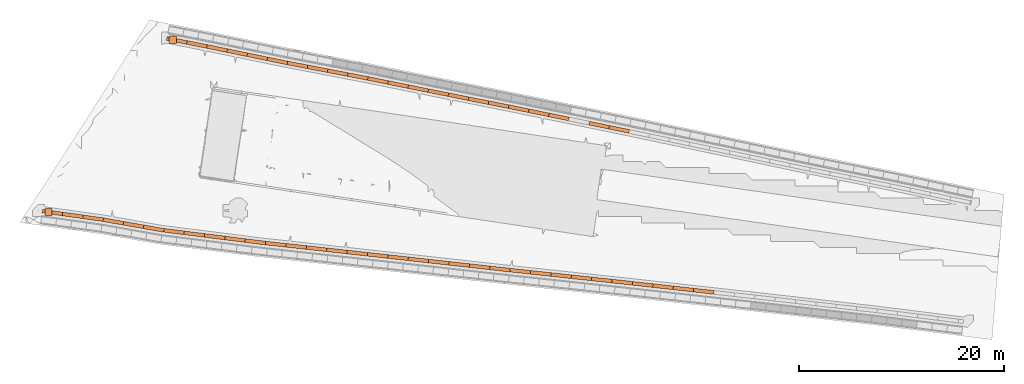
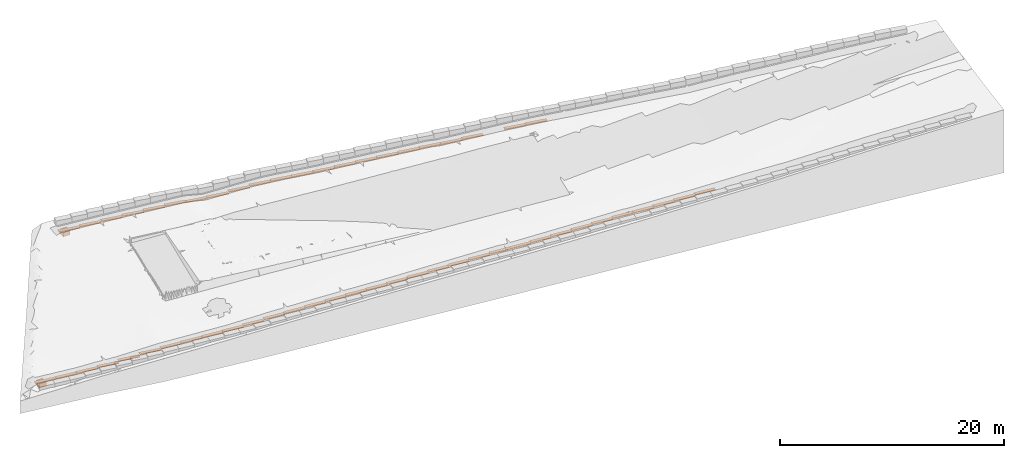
# Not in any storey, part 5 of 7: 57 proxies.
"""IFC4 model written with IfcOpenShell, lengths in metres."""

import ifcopenshell
import ifcopenshell.guid

model = None  # the IFC model being written
_history = None  # IfcOwnerHistory: only IFC2X3 demands one
_inside = {}  # id of a spatial element -> (the spatial element, [elements in it])
_under = {}  # id of a project, library or spatial element -> (it, [spatial elements below it])
_declared = {}  # id of a project -> (the project, [libraries it declares])
_typed = {}  # id of a type object -> (the type object, [elements of that type])
_made_of = {}  # id of a material, layer set ... -> (it, [elements and type objects made of it])


def new_model(schema):
    """Start an empty IFC model of exactly this schema.

    Asked for "IFC4X3", IfcOpenShell would pick the latest addendum, in which some entities
    have other attributes; the version numbers below select the first issue.
    IFC2X3 requires an IfcOwnerHistory on every rooted entity: one is made here for all.
    """
    global model, _history
    if schema == "IFC4X3":
        model = ifcopenshell.file(schema_version=(4, 3, 0, 0))
    else:
        model = ifcopenshell.file(schema=schema)
    _inside.clear()
    _under.clear()
    _declared.clear()
    _typed.clear()
    _made_of.clear()
    _history = None
    if model.schema == "IFC2X3":
        org = make("IfcOrganization", Name="unknown")
        user = make(
            "IfcPersonAndOrganization",
            ThePerson=make("IfcPerson", FamilyName="unknown"),
            TheOrganization=org,
        )
        app = make(
            "IfcApplication",
            ApplicationDeveloper=org,
            Version="unknown",
            ApplicationFullName="unknown",
            ApplicationIdentifier="unknown",
        )
        _history = make(
            "IfcOwnerHistory",
            OwningUser=user,
            OwningApplication=app,
            ChangeAction="ADDED",
            CreationDate=0,
        )
    return model


def make(cls, **values):
    """One entity of the class cls with the attributes given. An attribute that is None is left unset."""
    return model.create_entity(
        cls, **{name: value for name, value in values.items() if value is not None}
    )


def rooted(cls, **values):
    """An entity with a GlobalId (a new one), such as an element, a storey or a relation."""
    return make(cls, GlobalId=ifcopenshell.guid.new(), OwnerHistory=_history, **values)


def si_unit(unit_type, name, prefix=None):
    """IfcSIUnit, for example si_unit("LENGTHUNIT", "METRE", prefix="MILLI")."""
    return make("IfcSIUnit", UnitType=unit_type, Prefix=prefix, Name=name)


def assignment(units):
    """IfcUnitAssignment: the units of a project."""
    return None if units is None else make("IfcUnitAssignment", Units=units)


def point(xyz):
    """IfcCartesianPoint."""
    return None if xyz is None else make("IfcCartesianPoint", Coordinates=xyz)


def direction(xyz):
    """IfcDirection."""
    return None if xyz is None else make("IfcDirection", DirectionRatios=xyz)


def frame(location, z_axis=None, x_axis=None):
    """IfcAxis2Placement3D, a coordinate frame: its origin and axes. An axis left out is left unset."""
    return make(
        "IfcAxis2Placement3D",
        Location=point(location),
        Axis=direction(z_axis),
        RefDirection=direction(x_axis),
    )


def origin_with_axes():
    """The frame at (0, 0, 0) with the z axis (0, 0, 1) and the x axis (1, 0, 0) written out."""
    return frame((0.0, 0.0, 0.0), z_axis=(0.0, 0.0, 1.0), x_axis=(1.0, 0.0, 0.0))


def place(relative_to, where):
    """IfcLocalPlacement: puts the frame where relative to a parent placement (None: the world)."""
    return make(
        "IfcLocalPlacement", PlacementRelTo=relative_to, RelativePlacement=where
    )


def context(
    kind, dimensions, precision=None, world=None, true_north=None, identifier=None
):
    """IfcGeometricRepresentationContext, for example the 3D "Model" context."""
    return make(
        "IfcGeometricRepresentationContext",
        ContextIdentifier=identifier,
        ContextType=kind,
        CoordinateSpaceDimension=dimensions,
        Precision=precision,
        WorldCoordinateSystem=world,
        TrueNorth=true_north,
    )


def subcontext(parent, identifier, kind, view, scale=None):
    """IfcGeometricRepresentationSubContext, for example "Body" below "Model"."""
    return make(
        "IfcGeometricRepresentationSubContext",
        ContextIdentifier=identifier,
        ContextType=kind,
        ParentContext=parent,
        TargetScale=scale,
        TargetView=view,
    )


def project(units=None, contexts=None):
    """IfcProject with its units and contexts."""
    return rooted(
        "IfcProject",
        Name="project",
        RepresentationContexts=contexts,
        UnitsInContext=assignment(units),
    )


def spatial(cls, under=None, at=None, **own):
    """A site, building, storey or space (cls), placed at a placement, below another one or the project."""
    s = rooted(cls, ObjectPlacement=at, **own)
    if under is not None:
        _under.setdefault(under.id(), (under, []))[1].append(s)
    return s


def polyline(points):
    """IfcPolyline through the points."""
    return make("IfcPolyline", Points=[point(p) for p in points])


def outline(outer, holes=None, kind="AREA"):
    """IfcArbitraryClosedProfileDef: a profile drawn as a closed curve; with holes, ...WithVoids."""
    if holes is None:
        return make("IfcArbitraryClosedProfileDef", ProfileType=kind, OuterCurve=outer)
    return make(
        "IfcArbitraryProfileDefWithVoids",
        ProfileType=kind,
        OuterCurve=outer,
        InnerCurves=holes,
    )


def extrude(swept, where, along, depth):
    """IfcExtrudedAreaSolid: the profile swept, set in the frame where, extruded along a direction by depth."""
    return make(
        "IfcExtrudedAreaSolid",
        SweptArea=swept,
        Position=where,
        ExtrudedDirection=direction(along),
        Depth=depth,
    )


def shape(context_of_items, identifier, shape_type, items):
    """IfcShapeRepresentation: the items that make up one representation, for example the "Body"."""
    return make(
        "IfcShapeRepresentation",
        ContextOfItems=context_of_items,
        RepresentationIdentifier=identifier,
        RepresentationType=shape_type,
        Items=items,
    )


def material(Name=None, Category=None):
    """IfcMaterial."""
    return make("IfcMaterial", Name=Name, Category=Category)


def made_of(thing, what):
    """Note that an element or type object is made of a material, layer set ...; save() writes the relation."""
    if what is not None:
        _made_of.setdefault(what.id(), (what, []))[1].append(thing)
    return thing


def element(
    cls,
    number,
    at=None,
    inside=None,
    cuts=None,
    type_object=None,
    material=None,
    context=None,
    identifier="Body",
    shape_type=None,
    held_by="IfcProductDefinitionShape",
    body=None,
    shapes=None,
    **own,
):
    """One element of the class cls, such as IfcWall. Its Tag is "e" and its number.

    at: its placement. inside: the storey or other place that contains it. cuts: it is an
    opening in that element (IfcRelVoidsElement). A single representation is given by context,
    identifier, shape_type and body (its items); several are given by shapes. held_by: the class
    of the entity that holds the representations. save() writes the other relations.
    """
    e = rooted(cls, Tag="e%d" % number, ObjectPlacement=at, **own)
    if body is not None:
        shapes = [shape(context, identifier, shape_type, body)]
    if shapes is not None:
        e.Representation = make(held_by, Representations=shapes)
    if inside is not None:
        _inside.setdefault(inside.id(), (inside, []))[1].append(e)
    if cuts is not None:
        rooted(
            "IfcRelVoidsElement", RelatingBuildingElement=cuts, RelatedOpeningElement=e
        )
    if type_object is not None:
        _typed.setdefault(type_object.id(), (type_object, []))[1].append(e)
    return made_of(e, material)


def aggregate(whole, parts):
    """IfcRelAggregates: a whole, such as a stair, and the parts it consists of."""
    return rooted("IfcRelAggregates", RelatingObject=whole, RelatedObjects=parts)


def save(model, path):
    """Write the relations noted so far, then the file.

    IfcRelAggregates (storeys below a building ...), IfcRelContainedInSpatialStructure (elements
    in a storey), IfcRelDefinesByType, IfcRelAssociatesMaterial and IfcRelDeclares: one each for
    every whole, place, type object, material and project.
    """
    for whole, parts in _under.values():
        aggregate(whole, parts)
    for where, things in _inside.values():
        rooted(
            "IfcRelContainedInSpatialStructure",
            RelatedElements=things,
            RelatingStructure=where,
        )
    for kind, things in _typed.values():
        rooted("IfcRelDefinesByType", RelatedObjects=things, RelatingType=kind)
    for what, things in _made_of.values():
        rooted("IfcRelAssociatesMaterial", RelatedObjects=things, RelatingMaterial=what)
    for by, libraries in _declared.values():
        rooted("IfcRelDeclares", RelatingContext=by, RelatedDefinitions=libraries)
    model.write(path)


model = new_model("IFC4")

# Units and contexts
model_context = context("Model", 3, precision=1e-05, world=origin_with_axes(), true_north=direction((0.0, 1.0)))
body_context = subcontext(model_context, "Body", "Model", "MODEL_VIEW")
ifc_project = project(units=[si_unit("VOLUMEUNIT", "CUBIC_METRE"), si_unit("LENGTHUNIT", "METRE"), si_unit("AREAUNIT", "SQUARE_METRE")], contexts=[model_context])

# Site
site_placement = place(None, origin_with_axes())
site = spatial("IfcSite", under=ifc_project, at=site_placement, Name="Lares · Rua das Mercês · artigo 4771")

# Proxies
ifc_material_1 = material(Name="Brita drenante", Category="stone")
proxy_1_placement = place(site_placement, frame((0.0, 0.0, 12.9696659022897), z_axis=(0.0, 0.0, 1.0), x_axis=(1.0, -1.03767253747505e-17, 0.0)))
element("IfcBuildingElementProxy", 1, at=proxy_1_placement, inside=site, material=ifc_material_1, Name="Limite north · vala drenante 01", ObjectType="INTERCEPTOR_SWALE", PredefinedType="USERDEFINED", context=body_context, shape_type="SweptSolid", body=[
    extrude(outline(polyline([(4.20540687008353, 22.6116340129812), (4.13631619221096, 22.2583261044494), (2.17349447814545, 22.6421632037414), (2.24258515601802, 22.9954711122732), (4.20540687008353, 22.6116340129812)])), origin_with_axes(), (0.0, 0.0, 1.0), 0.07),
])
proxy_2_placement = place(site_placement, frame((0.0, 0.0, 13.09375059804), z_axis=(0.0, 0.0, 1.0), x_axis=(1.0, -1.03767253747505e-17, 0.0)))
element("IfcBuildingElementProxy", 2, at=proxy_2_placement, inside=site, material=ifc_material_1, Name="Limite north · vala drenante 02", ObjectType="INTERCEPTOR_SWALE", PredefinedType="USERDEFINED", context=body_context, shape_type="SweptSolid", body=[
    extrude(outline(polyline([(5.6166591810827, 22.3356583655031), (5.61837167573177, 22.3353148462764), (6.16886850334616, 22.2221064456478), (6.09635283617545, 21.8694855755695), (5.54671142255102, 21.9825180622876), (4.13631619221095, 22.2583261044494), (4.20540687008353, 22.6116340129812), (5.6166591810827, 22.3356583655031)])), origin_with_axes(), (0.0, 0.0, 1.0), 0.07),
])
proxy_3_placement = place(site_placement, frame((0.0, 0.0, 13.2143798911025), z_axis=(0.0, 0.0, 1.0), x_axis=(1.0, -1.03767253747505e-17, 0.0)))
element("IfcBuildingElementProxy", 3, at=proxy_3_placement, inside=site, material=ifc_material_1, Name="Limite north · vala drenante 03", ObjectType="INTERCEPTOR_SWALE", PredefinedType="USERDEFINED", context=body_context, shape_type="SweptSolid", body=[
    extrude(outline(polyline([(8.12787333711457, 21.8192416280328), (8.05535766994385, 21.4666207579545), (6.09635283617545, 21.8694855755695), (6.16886850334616, 22.2221064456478), (8.12787333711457, 21.8192416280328)])), origin_with_axes(), (0.0, 0.0, 1.0), 0.07),
])
proxy_4_placement = place(site_placement, frame((0.0, 0.0, 13.3340977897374), z_axis=(0.0, 0.0, 1.0), x_axis=(1.0, -1.03767253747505e-17, 0.0)))
element("IfcBuildingElementProxy", 4, at=proxy_4_placement, inside=site, material=ifc_material_1, Name="Limite north · vala drenante 04", ObjectType="INTERCEPTOR_SWALE", PredefinedType="USERDEFINED", context=body_context, shape_type="SweptSolid", body=[
    extrude(outline(polyline([(10.086878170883, 21.4163768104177), (10.0143625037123, 21.0637559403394), (8.05535766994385, 21.4666207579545), (8.12787333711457, 21.8192416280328), (10.086878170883, 21.4163768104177)])), origin_with_axes(), (0.0, 0.0, 1.0), 0.07),
])
proxy_5_placement = place(site_placement, frame((0.0, 0.0, 13.4538156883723), z_axis=(0.0, 0.0, 1.0), x_axis=(1.0, -1.03767253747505e-17, 0.0)))
element("IfcBuildingElementProxy", 5, at=proxy_5_placement, inside=site, material=ifc_material_1, Name="Limite north · vala drenante 05", ObjectType="INTERCEPTOR_SWALE", PredefinedType="USERDEFINED", context=body_context, shape_type="SweptSolid", body=[
    extrude(outline(polyline([(12.0458830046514, 21.0135119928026), (11.9733673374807, 20.6608911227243), (10.0143625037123, 21.0637559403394), (10.086878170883, 21.4163768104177), (12.0458830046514, 21.0135119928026)])), origin_with_axes(), (0.0, 0.0, 1.0), 0.07),
])
proxy_6_placement = place(site_placement, frame((0.0, 0.0, 13.5628101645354), z_axis=(0.0, 0.0, 1.0), x_axis=(1.0, -1.03767253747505e-17, 0.0)))
element("IfcBuildingElementProxy", 6, at=proxy_6_placement, inside=site, material=ifc_material_1, Name="Limite north · vala drenante 06", ObjectType="INTERCEPTOR_SWALE", PredefinedType="USERDEFINED", context=body_context, shape_type="SweptSolid", body=[
    extrude(outline(polyline([(13.7537541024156, 20.6622922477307), (14.0032633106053, 20.6143063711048), (13.935273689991, 20.2607849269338), (13.684631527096, 20.3089886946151), (13.6823685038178, 20.3094389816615), (11.9733673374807, 20.6608911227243), (12.0458830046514, 21.0135119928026), (13.7537541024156, 20.6622922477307)])), origin_with_axes(), (0.0, 0.0, 1.0), 0.07),
])
proxy_7_placement = place(site_placement, frame((0.0, 0.0, 13.4964708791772), z_axis=(0.0, 0.0, 1.0), x_axis=(1.0, -1.03767253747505e-17, 0.0)))
element("IfcBuildingElementProxy", 7, at=proxy_7_placement, inside=site, material=ifc_material_1, Name="Limite north · vala drenante 07", ObjectType="INTERCEPTOR_SWALE", PredefinedType="USERDEFINED", context=body_context, shape_type="SweptSolid", body=[
    extrude(outline(polyline([(15.9672713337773, 20.2365862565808), (15.899281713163, 19.8830648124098), (13.935273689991, 20.2607849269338), (14.0032633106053, 20.6143063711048), (15.9672713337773, 20.2365862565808)])), origin_with_axes(), (0.0, 0.0, 1.0), 0.07),
])
proxy_8_placement = place(site_placement, frame((0.0, 0.0, 13.538468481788), z_axis=(0.0, 0.0, 1.0), x_axis=(1.0, -1.03767253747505e-17, 0.0)))
element("IfcBuildingElementProxy", 8, at=proxy_8_placement, inside=site, material=ifc_material_1, Name="Limite north · vala drenante 08", ObjectType="INTERCEPTOR_SWALE", PredefinedType="USERDEFINED", context=body_context, shape_type="SweptSolid", body=[
    extrude(outline(polyline([(17.9312793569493, 19.8588661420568), (17.863289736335, 19.5053446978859), (15.899281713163, 19.8830648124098), (15.9672713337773, 20.2365862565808), (17.9312793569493, 19.8588661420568)])), origin_with_axes(), (0.0, 0.0, 1.0), 0.07),
])
proxy_9_placement = place(site_placement, frame((0.0, 0.0, 13.7432660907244), z_axis=(0.0, 0.0, 1.0), x_axis=(1.0, -1.03767253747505e-17, 0.0)))
element("IfcBuildingElementProxy", 9, at=proxy_9_placement, inside=site, material=ifc_material_1, Name="Limite north · vala drenante 09", ObjectType="INTERCEPTOR_SWALE", PredefinedType="USERDEFINED", context=body_context, shape_type="SweptSolid", body=[
    extrude(outline(polyline([(19.8952873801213, 19.4811460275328), (19.827297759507, 19.1276245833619), (17.863289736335, 19.5053446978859), (17.9312793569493, 19.8588661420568), (19.8952873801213, 19.4811460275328)])), origin_with_axes(), (0.0, 0.0, 1.0), 0.07),
])
proxy_10_placement = place(site_placement, frame((0.0, 0.0, 13.9169848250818), z_axis=(0.0, 0.0, 1.0), x_axis=(1.0, -1.03767253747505e-17, 0.0)))
element("IfcBuildingElementProxy", 10, at=proxy_10_placement, inside=site, material=ifc_material_1, Name="Limite north · vala drenante 10", ObjectType="INTERCEPTOR_SWALE", PredefinedType="USERDEFINED", context=body_context, shape_type="SweptSolid", body=[
    extrude(outline(polyline([(21.807899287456, 19.1133104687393), (21.8096475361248, 19.1129652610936), (21.8609432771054, 19.1025723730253), (21.7894571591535, 18.7497413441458), (21.7390346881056, 18.7599573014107), (19.827297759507, 19.1276245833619), (19.8952873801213, 19.4811460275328), (21.807899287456, 19.1133104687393)])), origin_with_axes(), (0.0, 0.0, 1.0), 0.07),
])
proxy_11_placement = place(site_placement, frame((0.0, 0.0, 13.9792573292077), z_axis=(0.0, 0.0, 1.0), x_axis=(1.0, -1.03767253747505e-17, 0.0)))
element("IfcBuildingElementProxy", 11, at=proxy_11_placement, inside=site, material=ifc_material_1, Name="Limite north · vala drenante 11", ObjectType="INTERCEPTOR_SWALE", PredefinedType="USERDEFINED", context=body_context, shape_type="SweptSolid", body=[
    extrude(outline(polyline([(23.8211156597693, 18.7054272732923), (23.7496295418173, 18.3525962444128), (21.7894571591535, 18.7497413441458), (21.8609432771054, 19.1025723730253), (23.8211156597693, 18.7054272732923)])), origin_with_axes(), (0.0, 0.0, 1.0), 0.07),
])
proxy_12_placement = place(site_placement, frame((0.0, 0.0, 13.9974718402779), z_axis=(0.0, 0.0, 1.0), x_axis=(1.0, -1.03767253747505e-17, 0.0)))
element("IfcBuildingElementProxy", 12, at=proxy_12_placement, inside=site, material=ifc_material_1, Name="Limite north · vala drenante 12", ObjectType="INTERCEPTOR_SWALE", PredefinedType="USERDEFINED", context=body_context, shape_type="SweptSolid", body=[
    extrude(outline(polyline([(25.7812880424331, 18.3082821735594), (25.7098019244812, 17.9554511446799), (23.7496295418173, 18.3525962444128), (23.8211156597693, 18.7054272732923), (25.7812880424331, 18.3082821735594)])), origin_with_axes(), (0.0, 0.0, 1.0), 0.07),
])
proxy_13_placement = place(site_placement, frame((0.0, 0.0, 14.0456124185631), z_axis=(0.0, 0.0, 1.0), x_axis=(1.0, -1.03767253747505e-17, 0.0)))
element("IfcBuildingElementProxy", 13, at=proxy_13_placement, inside=site, material=ifc_material_1, Name="Limite north · vala drenante 13", ObjectType="INTERCEPTOR_SWALE", PredefinedType="USERDEFINED", context=body_context, shape_type="SweptSolid", body=[
    extrude(outline(polyline([(27.565370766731, 17.9468141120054), (27.7410391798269, 17.9117680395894), (27.6706066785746, 17.5587251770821), (27.4946747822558, 17.593823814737), (27.494147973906, 17.5939297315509), (25.7098019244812, 17.9554511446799), (25.7812880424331, 18.3082821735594), (27.565370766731, 17.9468141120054)])), origin_with_axes(), (0.0, 0.0, 1.0), 0.07),
])
proxy_14_placement = place(site_placement, frame((0.0, 0.0, 14.1310970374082), z_axis=(0.0, 0.0, 1.0), x_axis=(1.0, -1.03767253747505e-17, 0.0)))
element("IfcBuildingElementProxy", 14, at=proxy_14_placement, inside=site, material=ifc_material_1, Name="Limite north · vala drenante 14", ObjectType="INTERCEPTOR_SWALE", PredefinedType="USERDEFINED", context=body_context, shape_type="SweptSolid", body=[
    extrude(outline(polyline([(29.7023884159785, 17.5204763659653), (29.6319559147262, 17.167433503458), (27.6706066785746, 17.5587251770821), (27.7410391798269, 17.9117680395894), (29.7023884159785, 17.5204763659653)])), origin_with_axes(), (0.0, 0.0, 1.0), 0.07),
])
proxy_15_placement = place(site_placement, frame((0.0, 0.0, 14.2034581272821), z_axis=(0.0, 0.0, 1.0), x_axis=(1.0, -1.03767253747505e-17, 0.0)))
element("IfcBuildingElementProxy", 15, at=proxy_15_placement, inside=site, material=ifc_material_1, Name="Limite north · vala drenante 15", ObjectType="INTERCEPTOR_SWALE", PredefinedType="USERDEFINED", context=body_context, shape_type="SweptSolid", body=[
    extrude(outline(polyline([(31.6637376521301, 17.1291846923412), (31.5933051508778, 16.7761418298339), (29.6319559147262, 17.167433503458), (29.7023884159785, 17.5204763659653), (31.6637376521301, 17.1291846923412)])), origin_with_axes(), (0.0, 0.0, 1.0), 0.07),
])
proxy_16_placement = place(site_placement, frame((0.0, 0.0, 14.2739755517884), z_axis=(0.0, 0.0, 1.0), x_axis=(1.0, -1.03767253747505e-17, 0.0)))
element("IfcBuildingElementProxy", 16, at=proxy_16_placement, inside=site, material=ifc_material_1, Name="Limite north · vala drenante 16", ObjectType="INTERCEPTOR_SWALE", PredefinedType="USERDEFINED", context=body_context, shape_type="SweptSolid", body=[
    extrude(outline(polyline([(33.6250868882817, 16.7378930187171), (33.5546543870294, 16.3848501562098), (31.5933051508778, 16.7761418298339), (31.6637376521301, 17.1291846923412), (33.6250868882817, 16.7378930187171)])), origin_with_axes(), (0.0, 0.0, 1.0), 0.07),
])
proxy_17_placement = place(site_placement, frame((0.0, 0.0, 14.3444929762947), z_axis=(0.0, 0.0, 1.0), x_axis=(1.0, -1.03767253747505e-17, 0.0)))
element("IfcBuildingElementProxy", 17, at=proxy_17_placement, inside=site, material=ifc_material_1, Name="Limite north · vala drenante 17", ObjectType="INTERCEPTOR_SWALE", PredefinedType="USERDEFINED", context=body_context, shape_type="SweptSolid", body=[
    extrude(outline(polyline([(35.5864361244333, 16.346601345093), (35.5160036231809, 15.9935584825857), (33.5546543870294, 16.3848501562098), (33.6250868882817, 16.7378930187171), (35.5864361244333, 16.346601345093)])), origin_with_axes(), (0.0, 0.0, 1.0), 0.07),
])
proxy_18_placement = place(site_placement, frame((0.0, 0.0, 14.4149426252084), z_axis=(0.0, 0.0, 1.0), x_axis=(1.0, -1.03767253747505e-17, 0.0)))
element("IfcBuildingElementProxy", 18, at=proxy_18_placement, inside=site, material=ifc_material_1, Name="Limite north · vala drenante 18", ObjectType="INTERCEPTOR_SWALE", PredefinedType="USERDEFINED", context=body_context, shape_type="SweptSolid", body=[
    extrude(outline(polyline([(36.3861439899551, 16.187058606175), (36.3870338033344, 16.1868787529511), (37.5474916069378, 15.9492741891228), (37.4752794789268, 15.5965910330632), (36.3152663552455, 15.83410454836), (35.5160036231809, 15.9935584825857), (35.5864361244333, 16.346601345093), (36.3861439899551, 16.187058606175)])), origin_with_axes(), (0.0, 0.0, 1.0), 0.07),
])
proxy_19_placement = place(site_placement, frame((0.0, 0.0, 14.417421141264), z_axis=(0.0, 0.0, 1.0), x_axis=(1.0, -1.03767253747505e-17, 0.0)))
element("IfcBuildingElementProxy", 19, at=proxy_19_placement, inside=site, material=ifc_material_1, Name="Limite north · vala drenante 19", ObjectType="INTERCEPTOR_SWALE", PredefinedType="USERDEFINED", context=body_context, shape_type="SweptSolid", body=[
    extrude(outline(polyline([(39.5068424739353, 15.548095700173), (39.4346303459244, 15.1954125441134), (37.4752794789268, 15.5965910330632), (37.5474916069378, 15.9492741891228), (39.5068424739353, 15.548095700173)])), origin_with_axes(), (0.0, 0.0, 1.0), 0.07),
])
proxy_20_placement = place(site_placement, frame((0.0, 0.0, 14.5250334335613), z_axis=(0.0, 0.0, 1.0), x_axis=(1.0, -1.03767253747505e-17, 0.0)))
element("IfcBuildingElementProxy", 20, at=proxy_20_placement, inside=site, material=ifc_material_1, Name="Limite north · vala drenante 20", ObjectType="INTERCEPTOR_SWALE", PredefinedType="USERDEFINED", context=body_context, shape_type="SweptSolid", body=[
    extrude(outline(polyline([(41.4661933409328, 15.1469172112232), (41.3939812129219, 14.7942340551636), (39.4346303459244, 15.1954125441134), (39.5068424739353, 15.548095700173), (41.4661933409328, 15.1469172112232)])), origin_with_axes(), (0.0, 0.0, 1.0), 0.07),
])
proxy_21_placement = place(site_placement, frame((0.0, 0.0, 14.7227260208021), z_axis=(0.0, 0.0, 1.0), x_axis=(1.0, -1.03767253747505e-17, 0.0)))
element("IfcBuildingElementProxy", 21, at=proxy_21_placement, inside=site, material=ifc_material_1, Name="Limite north · vala drenante 22", ObjectType="INTERCEPTOR_SWALE", PredefinedType="USERDEFINED", context=body_context, shape_type="SweptSolid", body=[
    extrude(outline(polyline([(45.3848950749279, 14.3445602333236), (45.3126829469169, 13.991877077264), (43.3533320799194, 14.3930555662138), (43.4255442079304, 14.7457387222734), (45.3848950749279, 14.3445602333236)])), origin_with_axes(), (0.0, 0.0, 1.0), 0.07),
])
proxy_22_placement = place(site_placement, frame((0.0, 0.0, 14.7853566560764), z_axis=(0.0, 0.0, 1.0), x_axis=(1.0, -1.03767253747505e-17, 0.0)))
element("IfcBuildingElementProxy", 22, at=proxy_22_placement, inside=site, material=ifc_material_1, Name="Limite north · vala drenante 23", ObjectType="INTERCEPTOR_SWALE", PredefinedType="USERDEFINED", context=body_context, shape_type="SweptSolid", body=[
    extrude(outline(polyline([(45.8690664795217, 14.2454257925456), (45.8699313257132, 14.2452465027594), (47.3436109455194, 13.9359676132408), (47.2696691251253, 13.5836430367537), (45.7964217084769, 13.8928312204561), (45.3126829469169, 13.991877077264), (45.3848950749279, 14.3445602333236), (45.8690664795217, 14.2454257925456)])), origin_with_axes(), (0.0, 0.0, 1.0), 0.07),
])
proxy_23_placement = place(site_placement, frame((0.0, 0.0, 10.901681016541), z_axis=(0.0, 0.0, 1.0), x_axis=(1.0, -1.03767253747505e-17, 0.0)))
element("IfcBuildingElementProxy", 23, at=proxy_23_placement, inside=site, material=ifc_material_1, Name="Limite south · vala drenante 01", ObjectType="INTERCEPTOR_SWALE", PredefinedType="USERDEFINED", context=body_context, shape_type="SweptSolid", body=[
    extrude(outline(polyline([(-7.92506020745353, 5.88610903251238), (-7.97522409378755, 5.52962118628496), (-9.95571212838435, 5.80830944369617), (-9.90554824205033, 6.1647972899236), (-7.92506020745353, 5.88610903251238)])), origin_with_axes(), (0.0, 0.0, 1.0), 0.07),
])
proxy_24_placement = place(site_placement, frame((0.0, 0.0, 10.9193821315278), z_axis=(0.0, 0.0, 1.0), x_axis=(1.0, -1.03767253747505e-17, 0.0)))
element("IfcBuildingElementProxy", 24, at=proxy_24_placement, inside=site, material=ifc_material_1, Name="Limite south · vala drenante 02", ObjectType="INTERCEPTOR_SWALE", PredefinedType="USERDEFINED", context=body_context, shape_type="SweptSolid", body=[
    extrude(outline(polyline([(-5.94457217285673, 5.60742077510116), (-5.99473605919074, 5.25093292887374), (-7.97522409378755, 5.52962118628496), (-7.92506020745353, 5.88610903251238), (-5.94457217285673, 5.60742077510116)])), origin_with_axes(), (0.0, 0.0, 1.0), 0.07),
])
proxy_25_placement = place(site_placement, frame((0.0, 0.0, 10.9619497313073), z_axis=(0.0, 0.0, 1.0), x_axis=(1.0, -1.03767253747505e-17, 0.0)))
element("IfcBuildingElementProxy", 25, at=proxy_25_placement, inside=site, material=ifc_material_1, Name="Limite south · vala drenante 03", ObjectType="INTERCEPTOR_SWALE", PredefinedType="USERDEFINED", context=body_context, shape_type="SweptSolid", body=[
    extrude(outline(polyline([(-4.0119916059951, 5.33547391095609), (-4.0057745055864, 5.33448790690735), (-3.95813205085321, 5.32607551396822), (-4.02073013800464, 4.97155967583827), (-4.06527266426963, 4.97942470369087), (-5.99473605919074, 5.25093292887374), (-5.94457217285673, 5.60742077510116), (-4.0119916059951, 5.33547391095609)])), origin_with_axes(), (0.0, 0.0, 1.0), 0.07),
])
proxy_26_placement = place(site_placement, frame((0.0, 0.0, 11.0765665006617), z_axis=(0.0, 0.0, 1.0), x_axis=(1.0, -1.03767253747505e-17, 0.0)))
element("IfcBuildingElementProxy", 26, at=proxy_26_placement, inside=site, material=ifc_material_1, Name="Limite south · vala drenante 04", ObjectType="INTERCEPTOR_SWALE", PredefinedType="USERDEFINED", context=body_context, shape_type="SweptSolid", body=[
    extrude(outline(polyline([(-1.98859961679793, 4.97830836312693), (-2.05119770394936, 4.62379252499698), (-4.02073013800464, 4.97155967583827), (-3.95813205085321, 5.32607551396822), (-1.98859961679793, 4.97830836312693)])), origin_with_axes(), (0.0, 0.0, 1.0), 0.07),
])
proxy_27_placement = place(site_placement, frame((0.0, 0.0, 11.294682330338), z_axis=(0.0, 0.0, 1.0), x_axis=(1.0, -1.03767253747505e-17, 0.0)))
element("IfcBuildingElementProxy", 27, at=proxy_27_placement, inside=site, material=ifc_material_1, Name="Limite south · vala drenante 05", ObjectType="INTERCEPTOR_SWALE", PredefinedType="USERDEFINED", context=body_context, shape_type="SweptSolid", body=[
    extrude(outline(polyline([(-0.019067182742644, 4.63054121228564), (-0.081665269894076, 4.27602537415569), (-2.05119770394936, 4.62379252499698), (-1.98859961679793, 4.97830836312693), (-0.019067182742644, 4.63054121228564)])), origin_with_axes(), (0.0, 0.0, 1.0), 0.07),
])
proxy_28_placement = place(site_placement, frame((0.0, 0.0, 11.5419240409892), z_axis=(0.0, 0.0, 1.0), x_axis=(1.0, -1.03767253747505e-17, 0.0)))
element("IfcBuildingElementProxy", 28, at=proxy_28_placement, inside=site, material=ifc_material_1, Name="Limite south · vala drenante 06", ObjectType="INTERCEPTOR_SWALE", PredefinedType="USERDEFINED", context=body_context, shape_type="SweptSolid", body=[
    extrude(outline(polyline([(1.69864220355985, 4.32723932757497), (1.94361428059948, 4.29622234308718), (1.89839413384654, 3.93907372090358), (1.64906149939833, 3.97064281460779), (1.64037252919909, 3.97195920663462), (-0.0816652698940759, 4.27602537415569), (-0.019067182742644, 4.63054121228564), (1.69864220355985, 4.32723932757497)])), origin_with_axes(), (0.0, 0.0, 1.0), 0.07),
])
proxy_29_placement = place(site_placement, frame((0.0, 0.0, 11.6844998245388), z_axis=(0.0, 0.0, 1.0), x_axis=(1.0, -1.03767253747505e-17, 0.0)))
element("IfcBuildingElementProxy", 29, at=proxy_29_placement, inside=site, material=ifc_material_1, Name="Limite south · vala drenante 07", ObjectType="INTERCEPTOR_SWALE", PredefinedType="USERDEFINED", context=body_context, shape_type="SweptSolid", body=[
    extrude(outline(polyline([(3.92777329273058, 4.04499930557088), (3.88255314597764, 3.68785068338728), (1.89839413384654, 3.93907372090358), (1.94361428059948, 4.29622234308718), (3.92777329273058, 4.04499930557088)])), origin_with_axes(), (0.0, 0.0, 1.0), 0.07),
])
proxy_30_placement = place(site_placement, frame((0.0, 0.0, 11.7461044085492), z_axis=(0.0, 0.0, 1.0), x_axis=(1.0, -1.03767253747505e-17, 0.0)))
element("IfcBuildingElementProxy", 30, at=proxy_30_placement, inside=site, material=ifc_material_1, Name="Limite south · vala drenante 08", ObjectType="INTERCEPTOR_SWALE", PredefinedType="USERDEFINED", context=body_context, shape_type="SweptSolid", body=[
    extrude(outline(polyline([(5.91193230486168, 3.79377626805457), (5.86671215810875, 3.43662764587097), (3.88255314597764, 3.68785068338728), (3.92777329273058, 4.04499930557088), (5.91193230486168, 3.79377626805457)])), origin_with_axes(), (0.0, 0.0, 1.0), 0.07),
])
proxy_31_placement = place(site_placement, frame((0.0, 0.0, 11.8077089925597), z_axis=(0.0, 0.0, 1.0), x_axis=(1.0, -1.03767253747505e-17, 0.0)))
element("IfcBuildingElementProxy", 31, at=proxy_31_placement, inside=site, material=ifc_material_1, Name="Limite south · vala drenante 09", ObjectType="INTERCEPTOR_SWALE", PredefinedType="USERDEFINED", context=body_context, shape_type="SweptSolid", body=[
    extrude(outline(polyline([(7.89609131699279, 3.54255323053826), (7.85087117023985, 3.18540460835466), (5.86671215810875, 3.43662764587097), (5.91193230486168, 3.79377626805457), (7.89609131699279, 3.54255323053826)])), origin_with_axes(), (0.0, 0.0, 1.0), 0.07),
])
proxy_32_placement = place(site_placement, frame((0.0, 0.0, 11.8693135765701), z_axis=(0.0, 0.0, 1.0), x_axis=(1.0, -1.03767253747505e-17, 0.0)))
element("IfcBuildingElementProxy", 32, at=proxy_32_placement, inside=site, material=ifc_material_1, Name="Limite south · vala drenante 10", ObjectType="INTERCEPTOR_SWALE", PredefinedType="USERDEFINED", context=body_context, shape_type="SweptSolid", body=[
    extrude(outline(polyline([(9.88025032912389, 3.29133019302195), (9.83503018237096, 2.93418157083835), (7.85087117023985, 3.18540460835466), (7.89609131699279, 3.54255323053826), (9.88025032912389, 3.29133019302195)])), origin_with_axes(), (0.0, 0.0, 1.0), 0.07),
])
proxy_33_placement = place(site_placement, frame((0.0, 0.0, 12.0038253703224), z_axis=(0.0, 0.0, 1.0), x_axis=(1.0, -1.03767253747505e-17, 0.0)))
element("IfcBuildingElementProxy", 33, at=proxy_33_placement, inside=site, material=ifc_material_1, Name="Limite south · vala drenante 11", ObjectType="INTERCEPTOR_SWALE", PredefinedType="USERDEFINED", context=body_context, shape_type="SweptSolid", body=[
    extrude(outline(polyline([(11.2335174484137, 3.11998713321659), (11.8627287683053, 3.05061714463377), (11.8232781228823, 2.6927852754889), (11.192623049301, 2.76231443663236), (11.189738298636, 2.762656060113), (9.83503018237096, 2.93418157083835), (9.88025032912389, 3.29133019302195), (11.2335174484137, 3.11998713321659)])), origin_with_axes(), (0.0, 0.0, 1.0), 0.07),
])
proxy_34_placement = place(site_placement, frame((0.0, 0.0, 12.1412662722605), z_axis=(0.0, 0.0, 1.0), x_axis=(1.0, -1.03767253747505e-17, 0.0)))
element("IfcBuildingElementProxy", 34, at=proxy_34_placement, inside=site, material=ifc_material_1, Name="Limite south · vala drenante 12", ObjectType="INTERCEPTOR_SWALE", PredefinedType="USERDEFINED", context=body_context, shape_type="SweptSolid", body=[
    extrude(outline(polyline([(13.8506835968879, 2.83144689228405), (13.8112329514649, 2.47361502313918), (11.8232781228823, 2.6927852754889), (11.8627287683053, 3.05061714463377), (13.8506835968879, 2.83144689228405)])), origin_with_axes(), (0.0, 0.0, 1.0), 0.07),
])
proxy_35_placement = place(site_placement, frame((0.0, 0.0, 12.2267318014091), z_axis=(0.0, 0.0, 1.0), x_axis=(1.0, -1.03767253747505e-17, 0.0)))
element("IfcBuildingElementProxy", 35, at=proxy_35_placement, inside=site, material=ifc_material_1, Name="Limite south · vala drenante 13", ObjectType="INTERCEPTOR_SWALE", PredefinedType="USERDEFINED", context=body_context, shape_type="SweptSolid", body=[
    extrude(outline(polyline([(15.8386384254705, 2.61227663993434), (15.7991877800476, 2.25444477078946), (13.8112329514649, 2.47361502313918), (13.8506835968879, 2.83144689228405), (15.8386384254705, 2.61227663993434)])), origin_with_axes(), (0.0, 0.0, 1.0), 0.07),
])
proxy_36_placement = place(site_placement, frame((0.0, 0.0, 12.3121973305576), z_axis=(0.0, 0.0, 1.0), x_axis=(1.0, -1.03767253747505e-17, 0.0)))
element("IfcBuildingElementProxy", 36, at=proxy_36_placement, inside=site, material=ifc_material_1, Name="Limite south · vala drenante 14", ObjectType="INTERCEPTOR_SWALE", PredefinedType="USERDEFINED", context=body_context, shape_type="SweptSolid", body=[
    extrude(outline(polyline([(17.8265932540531, 2.39310638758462), (17.7871426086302, 2.03527451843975), (15.7991877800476, 2.25444477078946), (15.8386384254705, 2.61227663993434), (17.8265932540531, 2.39310638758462)])), origin_with_axes(), (0.0, 0.0, 1.0), 0.07),
])
proxy_37_placement = place(site_placement, frame((0.0, 0.0, 12.3930196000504), z_axis=(0.0, 0.0, 1.0), x_axis=(1.0, -1.03767253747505e-17, 0.0)))
element("IfcBuildingElementProxy", 37, at=proxy_37_placement, inside=site, material=ifc_material_1, Name="Limite south · vala drenante 15", ObjectType="INTERCEPTOR_SWALE", PredefinedType="USERDEFINED", context=body_context, shape_type="SweptSolid", body=[
    extrude(outline(polyline([(19.8145480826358, 2.1739361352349), (19.7750974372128, 1.81610426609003), (17.7871426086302, 2.03527451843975), (17.8265932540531, 2.39310638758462), (19.8145480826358, 2.1739361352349)])), origin_with_axes(), (0.0, 0.0, 1.0), 0.07),
])
proxy_38_placement = place(site_placement, frame((0.0, 0.0, 12.4659319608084), z_axis=(0.0, 0.0, 1.0), x_axis=(1.0, -1.03767253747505e-17, 0.0)))
element("IfcBuildingElementProxy", 38, at=proxy_38_placement, inside=site, material=ifc_material_1, Name="Limite south · vala drenante 16", ObjectType="INTERCEPTOR_SWALE", PredefinedType="USERDEFINED", context=body_context, shape_type="SweptSolid", body=[
    extrude(outline(polyline([(21.8025029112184, 1.95476588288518), (21.7630522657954, 1.59693401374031), (19.7750974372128, 1.81610426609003), (19.8145480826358, 2.1739361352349), (21.8025029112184, 1.95476588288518)])), origin_with_axes(), (0.0, 0.0, 1.0), 0.07),
])
proxy_39_placement = place(site_placement, frame((0.0, 0.0, 12.5217426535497), z_axis=(0.0, 0.0, 1.0), x_axis=(1.0, -1.03767253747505e-17, 0.0)))
element("IfcBuildingElementProxy", 39, at=proxy_39_placement, inside=site, material=ifc_material_1, Name="Limite south · vala drenante 17", ObjectType="INTERCEPTOR_SWALE", PredefinedType="USERDEFINED", context=body_context, shape_type="SweptSolid", body=[
    extrude(outline(polyline([(23.621795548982, 1.75419048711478), (23.6220143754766, 1.7541662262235), (23.7906536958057, 1.73536508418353), (23.7507653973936, 1.3775817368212), (23.582235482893, 1.39637068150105), (21.7630522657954, 1.59693401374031), (21.8025029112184, 1.95476588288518), (23.621795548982, 1.75419048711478)])), origin_with_axes(), (0.0, 0.0, 1.0), 0.07),
])
proxy_40_placement = place(site_placement, frame((0.0, 0.0, 12.5988147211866), z_axis=(0.0, 0.0, 1.0), x_axis=(1.0, -1.03767253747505e-17, 0.0)))
element("IfcBuildingElementProxy", 40, at=proxy_40_placement, inside=site, material=ifc_material_1, Name="Limite south · vala drenante 18", ObjectType="INTERCEPTOR_SWALE", PredefinedType="USERDEFINED", context=body_context, shape_type="SweptSolid", body=[
    extrude(outline(polyline([(25.7783389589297, 1.5137634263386), (25.7384506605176, 1.15598007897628), (23.7507653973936, 1.3775817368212), (23.7906536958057, 1.73536508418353), (25.7783389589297, 1.5137634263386)])), origin_with_axes(), (0.0, 0.0, 1.0), 0.07),
])
proxy_41_placement = place(site_placement, frame((0.0, 0.0, 12.6991830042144), z_axis=(0.0, 0.0, 1.0), x_axis=(1.0, -1.03767253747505e-17, 0.0)))
element("IfcBuildingElementProxy", 41, at=proxy_41_placement, inside=site, material=ifc_material_1, Name="Limite south · vala drenante 19", ObjectType="INTERCEPTOR_SWALE", PredefinedType="USERDEFINED", context=body_context, shape_type="SweptSolid", body=[
    extrude(outline(polyline([(27.7660242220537, 1.29216176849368), (27.7261359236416, 0.934378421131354), (25.7384506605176, 1.15598007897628), (25.7783389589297, 1.5137634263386), (27.7660242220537, 1.29216176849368)])), origin_with_axes(), (0.0, 0.0, 1.0), 0.07),
])
proxy_42_placement = place(site_placement, frame((0.0, 0.0, 12.7993544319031), z_axis=(0.0, 0.0, 1.0), x_axis=(1.0, -1.03767253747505e-17, 0.0)))
element("IfcBuildingElementProxy", 42, at=proxy_42_placement, inside=site, material=ifc_material_1, Name="Limite south · vala drenante 20", ObjectType="INTERCEPTOR_SWALE", PredefinedType="USERDEFINED", context=body_context, shape_type="SweptSolid", body=[
    extrude(outline(polyline([(29.7537094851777, 1.07056011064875), (29.7138211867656, 0.712776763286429), (27.7261359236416, 0.934378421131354), (27.7660242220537, 1.29216176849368), (29.7537094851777, 1.07056011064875)])), origin_with_axes(), (0.0, 0.0, 1.0), 0.07),
])
proxy_43_placement = place(site_placement, frame((0.0, 0.0, 12.8983907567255), z_axis=(0.0, 0.0, 1.0), x_axis=(1.0, -1.03767253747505e-17, 0.0)))
element("IfcBuildingElementProxy", 43, at=proxy_43_placement, inside=site, material=ifc_material_1, Name="Limite south · vala drenante 21", ObjectType="INTERCEPTOR_SWALE", PredefinedType="USERDEFINED", context=body_context, shape_type="SweptSolid", body=[
    extrude(outline(polyline([(31.7413947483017, 0.848958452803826), (31.7015064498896, 0.491175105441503), (29.7138211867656, 0.712776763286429), (29.7537094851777, 1.07056011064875), (31.7413947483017, 0.848958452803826)])), origin_with_axes(), (0.0, 0.0, 1.0), 0.07),
])
proxy_44_placement = place(site_placement, frame((0.0, 0.0, 12.9974270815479), z_axis=(0.0, 0.0, 1.0), x_axis=(1.0, -1.03767253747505e-17, 0.0)))
element("IfcBuildingElementProxy", 44, at=proxy_44_placement, inside=site, material=ifc_material_1, Name="Limite south · vala drenante 22", ObjectType="INTERCEPTOR_SWALE", PredefinedType="USERDEFINED", context=body_context, shape_type="SweptSolid", body=[
    extrude(outline(polyline([(33.7290800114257, 0.627356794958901), (33.6891917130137, 0.269573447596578), (31.7015064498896, 0.491175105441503), (31.7413947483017, 0.848958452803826), (33.7290800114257, 0.627356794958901)])), origin_with_axes(), (0.0, 0.0, 1.0), 0.07),
])
proxy_45_placement = place(site_placement, frame((0.0, 0.0, 13.0964634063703), z_axis=(0.0, 0.0, 1.0), x_axis=(1.0, -1.03767253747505e-17, 0.0)))
element("IfcBuildingElementProxy", 45, at=proxy_45_placement, inside=site, material=ifc_material_1, Name="Limite south · vala drenante 23", ObjectType="INTERCEPTOR_SWALE", PredefinedType="USERDEFINED", context=body_context, shape_type="SweptSolid", body=[
    extrude(outline(polyline([(35.2866373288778, 0.453708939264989), (35.7162568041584, 0.407488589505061), (35.6777486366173, 0.0495540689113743), (35.2477840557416, 0.095811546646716), (35.247093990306, 0.0958871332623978), (33.6891917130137, 0.269573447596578), (33.7290800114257, 0.627356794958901), (35.2866373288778, 0.453708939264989)])), origin_with_axes(), (0.0, 0.0, 1.0), 0.07),
])
proxy_46_placement = place(site_placement, frame((0.0, 0.0, 13.1093433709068), z_axis=(0.0, 0.0, 1.0), x_axis=(1.0, -1.03767253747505e-17, 0.0)))
element("IfcBuildingElementProxy", 46, at=proxy_46_placement, inside=site, material=ifc_material_1, Name="Limite south · vala drenante 24", ObjectType="INTERCEPTOR_SWALE", PredefinedType="USERDEFINED", context=body_context, shape_type="SweptSolid", body=[
    extrude(outline(polyline([(37.7047819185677, 0.19355432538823), (37.6662737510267, -0.164380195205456), (35.6777486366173, 0.0495540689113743), (35.7162568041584, 0.407488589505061), (37.7047819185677, 0.19355432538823)])), origin_with_axes(), (0.0, 0.0, 1.0), 0.07),
])
proxy_47_placement = place(site_placement, frame((0.0, 0.0, 13.1967736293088), z_axis=(0.0, 0.0, 1.0), x_axis=(1.0, -1.03767253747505e-17, 0.0)))
element("IfcBuildingElementProxy", 47, at=proxy_47_placement, inside=site, material=ifc_material_1, Name="Limite south · vala drenante 25", ObjectType="INTERCEPTOR_SWALE", PredefinedType="USERDEFINED", context=body_context, shape_type="SweptSolid", body=[
    extrude(outline(polyline([(39.6933070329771, -0.0203799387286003), (39.6547988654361, -0.378314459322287), (37.6662737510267, -0.164380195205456), (37.7047819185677, 0.19355432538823), (39.6933070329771, -0.0203799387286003)])), origin_with_axes(), (0.0, 0.0, 1.0), 0.07),
])
proxy_48_placement = place(site_placement, frame((0.0, 0.0, 13.2880985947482), z_axis=(0.0, 0.0, 1.0), x_axis=(1.0, -1.03767253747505e-17, 0.0)))
element("IfcBuildingElementProxy", 48, at=proxy_48_placement, inside=site, material=ifc_material_1, Name="Limite south · vala drenante 26", ObjectType="INTERCEPTOR_SWALE", PredefinedType="USERDEFINED", context=body_context, shape_type="SweptSolid", body=[
    extrude(outline(polyline([(41.6818321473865, -0.234314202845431), (41.6433239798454, -0.592248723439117), (39.6547988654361, -0.378314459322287), (39.6933070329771, -0.0203799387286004), (41.6818321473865, -0.234314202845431)])), origin_with_axes(), (0.0, 0.0, 1.0), 0.07),
])
proxy_49_placement = place(site_placement, frame((0.0, 0.0, 13.3883087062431), z_axis=(0.0, 0.0, 1.0), x_axis=(1.0, -1.03767253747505e-17, 0.0)))
element("IfcBuildingElementProxy", 49, at=proxy_49_placement, inside=site, material=ifc_material_1, Name="Limite south · vala drenante 27", ObjectType="INTERCEPTOR_SWALE", PredefinedType="USERDEFINED", context=body_context, shape_type="SweptSolid", body=[
    extrude(outline(polyline([(43.6703572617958, -0.448248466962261), (43.6318490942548, -0.806182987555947), (41.6433239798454, -0.592248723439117), (41.6818321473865, -0.234314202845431), (43.6703572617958, -0.448248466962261)])), origin_with_axes(), (0.0, 0.0, 1.0), 0.07),
])
proxy_50_placement = place(site_placement, frame((0.0, 0.0, 13.488518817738), z_axis=(0.0, 0.0, 1.0), x_axis=(1.0, -1.03767253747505e-17, 0.0)))
element("IfcBuildingElementProxy", 50, at=proxy_50_placement, inside=site, material=ifc_material_1, Name="Limite south · vala drenante 28", ObjectType="INTERCEPTOR_SWALE", PredefinedType="USERDEFINED", context=body_context, shape_type="SweptSolid", body=[
    extrude(outline(polyline([(45.6588823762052, -0.662182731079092), (45.6203742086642, -1.02011725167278), (43.6318490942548, -0.806182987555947), (43.6703572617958, -0.448248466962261), (45.6588823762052, -0.662182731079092)])), origin_with_axes(), (0.0, 0.0, 1.0), 0.07),
])
proxy_51_placement = place(site_placement, frame((0.0, 0.0, 13.5887289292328), z_axis=(0.0, 0.0, 1.0), x_axis=(1.0, -1.03767253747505e-17, 0.0)))
element("IfcBuildingElementProxy", 51, at=proxy_51_placement, inside=site, material=ifc_material_1, Name="Limite south · vala drenante 29", ObjectType="INTERCEPTOR_SWALE", PredefinedType="USERDEFINED", context=body_context, shape_type="SweptSolid", body=[
    extrude(outline(polyline([(47.2895826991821, -0.837620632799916), (47.2901932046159, -0.837687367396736), (47.6478845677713, -0.877404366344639), (47.6081553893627, -1.23520541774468), (47.2507692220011, -1.19552230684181), (45.6203742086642, -1.02011725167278), (45.6588823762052, -0.662182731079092), (47.2895826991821, -0.837620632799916)])), origin_with_axes(), (0.0, 0.0, 1.0), 0.07),
])
proxy_52_placement = place(site_placement, frame((0.0, 0.0, 13.6175161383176), z_axis=(0.0, 0.0, 1.0), x_axis=(1.0, -1.03767253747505e-17, 0.0)))
element("IfcBuildingElementProxy", 52, at=proxy_52_placement, inside=site, material=ifc_material_1, Name="Limite south · vala drenante 30", ObjectType="INTERCEPTOR_SWALE", PredefinedType="USERDEFINED", context=body_context, shape_type="SweptSolid", body=[
    extrude(outline(polyline([(49.6356681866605, -1.09812202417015), (49.5959390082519, -1.45592307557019), (47.6081553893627, -1.23520541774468), (47.6478845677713, -0.877404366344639), (49.6356681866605, -1.09812202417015)])), origin_with_axes(), (0.0, 0.0, 1.0), 0.07),
])
proxy_53_placement = place(site_placement, frame((0.0, 0.0, 13.7021213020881), z_axis=(0.0, 0.0, 1.0), x_axis=(1.0, -1.03767253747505e-17, 0.0)))
element("IfcBuildingElementProxy", 53, at=proxy_53_placement, inside=site, material=ifc_material_1, Name="Limite south · vala drenante 31", ObjectType="INTERCEPTOR_SWALE", PredefinedType="USERDEFINED", context=body_context, shape_type="SweptSolid", body=[
    extrude(outline(polyline([(51.6234518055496, -1.31883968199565), (51.583722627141, -1.6766407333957), (49.5959390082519, -1.45592307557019), (49.6356681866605, -1.09812202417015), (51.6234518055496, -1.31883968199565)])), origin_with_axes(), (0.0, 0.0, 1.0), 0.07),
])
proxy_54_placement = place(site_placement, frame((0.0, 0.0, 13.793025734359), z_axis=(0.0, 0.0, 1.0), x_axis=(1.0, -1.03767253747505e-17, 0.0)))
element("IfcBuildingElementProxy", 54, at=proxy_54_placement, inside=site, material=ifc_material_1, Name="Limite south · vala drenante 32", ObjectType="INTERCEPTOR_SWALE", PredefinedType="USERDEFINED", context=body_context, shape_type="SweptSolid", body=[
    extrude(outline(polyline([(53.6112354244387, -1.53955733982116), (53.5715062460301, -1.89735839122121), (51.583722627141, -1.6766407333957), (51.6234518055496, -1.31883968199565), (53.6112354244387, -1.53955733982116)])), origin_with_axes(), (0.0, 0.0, 1.0), 0.07),
])
proxy_55_placement = place(site_placement, frame((0.0, 0.0, 13.9005195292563), z_axis=(0.0, 0.0, 1.0), x_axis=(1.0, -1.03767253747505e-17, 0.0)))
element("IfcBuildingElementProxy", 55, at=proxy_55_placement, inside=site, material=ifc_material_1, Name="Limite south · vala drenante 33", ObjectType="INTERCEPTOR_SWALE", PredefinedType="USERDEFINED", context=body_context, shape_type="SweptSolid", body=[
    extrude(outline(polyline([(55.5990190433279, -1.76027499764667), (55.5592898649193, -2.11807604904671), (53.5715062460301, -1.89735839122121), (53.6112354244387, -1.53955733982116), (55.5990190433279, -1.76027499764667)])), origin_with_axes(), (0.0, 0.0, 1.0), 0.07),
])
ifc_material_2 = material(Name="Betão armado / Stahlbeton", Category="concrete")
proxy_56_placement = place(site_placement, frame((0.0, 0.0, 12.5648489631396), z_axis=(0.0, 0.0, 1.0), x_axis=(1.0, -1.03767253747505e-17, 0.0)))
element("IfcBuildingElementProxy", 56, at=proxy_56_placement, inside=site, material=ifc_material_2, Name="Limite north · reserva de caixa de recolha", ObjectType="DRAINAGE_COLLECTION_RESERVE", PredefinedType="USERDEFINED", context=body_context, shape_type="SweptSolid", body=[
    extrude(outline(polyline([(3.14688633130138, 22.3536660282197), (3.14688633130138, 23.0536660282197), (2.44688633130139, 23.0536660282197), (2.44688633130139, 22.3536660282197), (3.14688633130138, 22.3536660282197)])), origin_with_axes(), (0.0, 0.0, 1.0), 0.45),
])
proxy_57_placement = place(site_placement, frame((0.0, 0.0, 10.5181407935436), z_axis=(0.0, 0.0, 1.0), x_axis=(1.0, -1.03767253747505e-17, 0.0)))
element("IfcBuildingElementProxy", 57, at=proxy_57_placement, inside=site, material=ifc_material_2, Name="Limite south · reserva de caixa de recolha", ObjectType="DRAINAGE_COLLECTION_RESERVE", PredefinedType="USERDEFINED", context=body_context, shape_type="SweptSolid", body=[
    extrude(outline(polyline([(-8.9864837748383, 5.55294688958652), (-8.9864837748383, 6.25294688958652), (-9.6864837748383, 6.25294688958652), (-9.6864837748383, 5.55294688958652), (-8.9864837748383, 5.55294688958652)])), origin_with_axes(), (0.0, 0.0, 1.0), 0.45),
])

save(model, "model.ifc")
